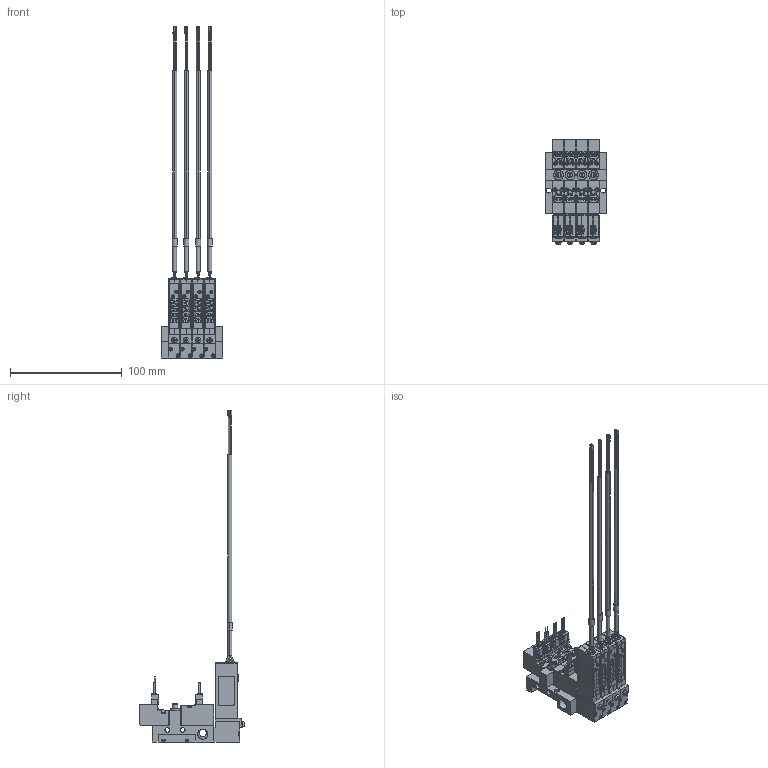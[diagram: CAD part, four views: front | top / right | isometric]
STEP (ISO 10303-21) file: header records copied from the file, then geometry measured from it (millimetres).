
FILE_DESCRIPTION(('STEP AP203'),'1');
FILE_NAME('2-NO(NC)-4EZ-M04-V9.stp','2025-05-09T00:50:15',(' '),(' '),'Spatial InterOp 3D',' ',' ');
FILE_SCHEMA(('CONFIG_CONTROL_DESIGN'));
Length unit declared in the file: millimetre
Products named in the file (118): PV1※2-NO(NC)-4EZ-M04-V9; BODY; PLATE; NEEDLE; BOLT; SOLENOID VALVE VOLTAGE PV; 42; 45; 48; 51; BRAKET(MPS-V9  PV용)NEW; BRAKET; MPS-V9AC.ics; __1; MPS-V9AC; MSBR-29_1; MSBR-28_1; MSBR-27_1; MSBR-26_1; MSBR-25_1; MSBR-24_1; MSBR-21_1; MSBR-7_1; MSBR-4_1; MSBR-1_1; SOLENOID VALVE VOLTAGE PV-NC2
Assembly tree (117 placements, depth 5):
  PV1※2-NO(NC)-4EZ-M04-V9
    BODY
    PLATE
    PLATE
    NEEDLE
    BOLT
    BOLT
    BOLT
    BOLT
    BOLT
    BOLT
    SOLENOID VALVE VOLTAGE PV
      42
      45
      48
      51
    NEEDLE
    SOLENOID VALVE VOLTAGE PV
      42
      45
      48
      51
    NEEDLE
    SOLENOID VALVE VOLTAGE PV
      42
      45
      48
      51
    PLATE
    BOLT
    BOLT
    BOLT
    PLATE
    BOLT
    BOLT
    BOLT
    NEEDLE
    SOLENOID VALVE VOLTAGE PV
      42
      45
      48
      51
    BRAKET(MPS-V9  PV용)NEW
      BRAKET
      BOLT
      BOLT
      MPS-V9AC.ics
        __1
        MPS-V9AC
          MSBR-29_1
          MSBR-28_1
          MSBR-27_1
          MSBR-26_1
          MSBR-25_1
          MSBR-24_1
          MSBR-21_1
          MSBR-7_1
          MSBR-4_1
          MSBR-4_1
          MSBR-1_1
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Bounding box: 55.5 x 94.29 x 297.25 mm (x, y, z)
Volume: 115245.8 mm3; surface area: 98210.1 mm2
Topology: 97 solids, 133 shells, 4909 faces, 13342 edges, 8981 vertices
Faces by surface type: plane 3828, cylinder 827, torus 92, bspline 60, cone 46, extrusion 40, sphere 16
Full cylindrical faces by diameter (mm): 1.4 x8, 2 x12, 2.3 x8, 2.5 x4, 3 x28, 3.5 x4, 4.2 x10, 4.5 x2, 5 x8, 6.5 x1, 8.797 x2, 9 x4
Entity records: 161106 total; most frequent: CARTESIAN_POINT 30975, ORIENTED_EDGE 25784, DIRECTION 24966, EDGE_CURVE 13044, VECTOR 10168, LINE 10128, VERTEX_POINT 8880, AXIS2_PLACEMENT_3D 7399
